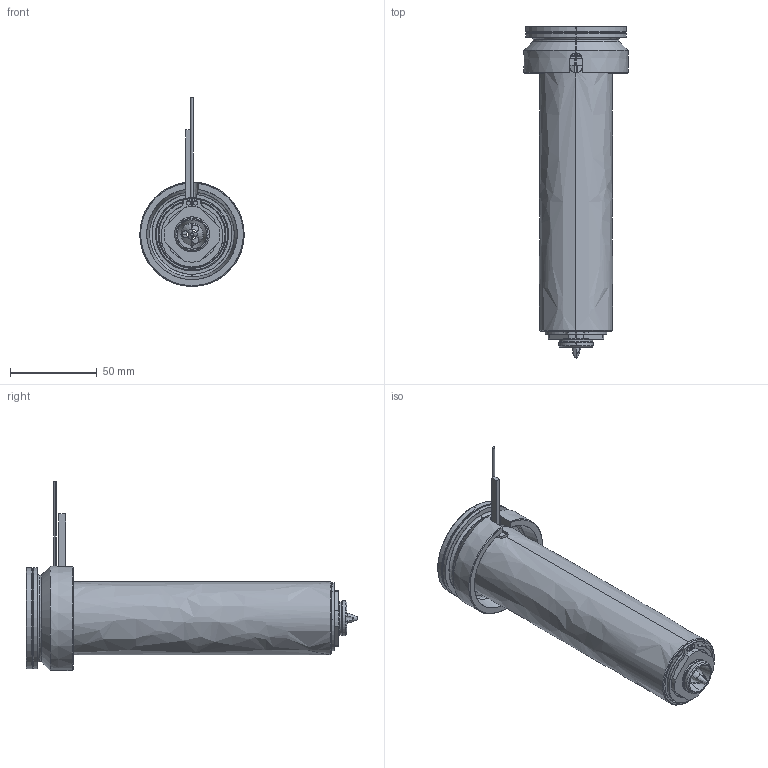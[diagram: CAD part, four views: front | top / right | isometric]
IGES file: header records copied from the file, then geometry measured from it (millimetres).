
Start section: SolidWorks IGES file using analytic representation for surfaces
Global section: file name: C:\Documents and Settings\ws-20\Desktop\TEM\UGEP6007-S-A-0 [Øf-1.6 ØC-16].IGS; native system: SolidWorks 2012; preprocessor: SolidWorks 2012; author: ws-20; date: 120427.094221; units: millimetre
Bounding box: 60 x 190.8 x 108.65 mm (x, y, z)
Surface area: 83807.9 mm2 (no closed solid volume)
Topology: 0 solids, 0 shells, 128 faces, 2452 edges, 2452 vertices
Faces by surface type: revolution 85, bspline 43
